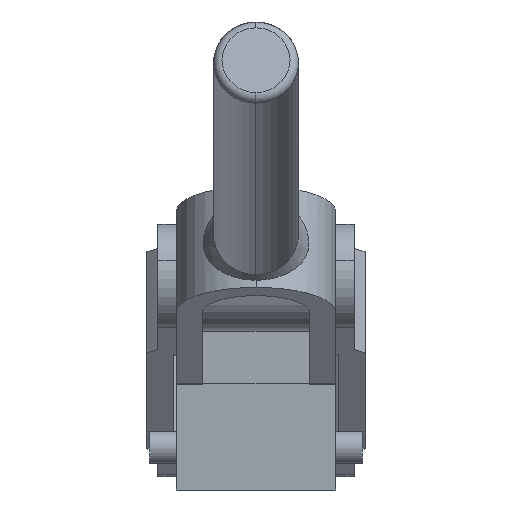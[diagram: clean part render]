
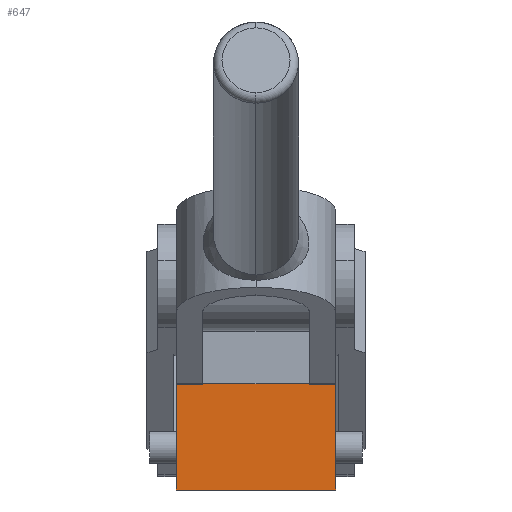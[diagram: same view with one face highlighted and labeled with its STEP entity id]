
A CAD part, left-side view. The second image highlights one B-rep face of the part: STEP entity #647.
In plain terms, the highlighted planar face has unit normal (-1, 0, 0).
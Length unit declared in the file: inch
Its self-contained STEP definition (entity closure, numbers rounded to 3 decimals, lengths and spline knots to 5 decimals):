
#647 = ADVANCED_FACE( '', ( #840, #841 ), #842, .T. );
#840 = FACE_OUTER_BOUND( '', #1133, .T. );
#841 = FACE_BOUND( '', #1134, .T. );
#842 = PLANE( '', #1135 );
#1133 = EDGE_LOOP( '', ( #1714, #1715, #1716, #1717 ) );
#1134 = EDGE_LOOP( '', ( #1718, #1719, #1720, #1721 ) );
#1135 = AXIS2_PLACEMENT_3D( '', #1722, #1723, #1724 );
#1714 = ORIENTED_EDGE( '', *, *, #2579, .T. );
#1715 = ORIENTED_EDGE( '', *, *, #2573, .F. );
#1716 = ORIENTED_EDGE( '', *, *, #2571, .F. );
#1717 = ORIENTED_EDGE( '', *, *, #2565, .T. );
#1718 = ORIENTED_EDGE( '', *, *, #2580, .T. );
#1719 = ORIENTED_EDGE( '', *, *, #2581, .T. );
#1720 = ORIENTED_EDGE( '', *, *, #2554, .T. );
#1721 = ORIENTED_EDGE( '', *, *, #2582, .T. );
#1722 = CARTESIAN_POINT( '', ( -2.5, -0.5625, 0. ) );
#1723 = DIRECTION( '', ( -1., 0., 0. ) );
#1724 = DIRECTION( '', ( 0., 0., 1. ) );
#2554 = EDGE_CURVE( '', #2993, #2991, #2994, .T. );
#2565 = EDGE_CURVE( '', #3013, #3011, #3014, .T. );
#2571 = EDGE_CURVE( '', #3013, #3022, #3023, .T. );
#2573 = EDGE_CURVE( '', #3022, #3025, #3026, .T. );
#2579 = EDGE_CURVE( '', #3011, #3025, #3034, .T. );
#2580 = EDGE_CURVE( '', #3035, #3036, #3037, .T. );
#2581 = EDGE_CURVE( '', #3036, #2993, #3038, .T. );
#2582 = EDGE_CURVE( '', #2991, #3035, #3039, .T. );
#2991 = VERTEX_POINT( '', #3707 );
#2993 = VERTEX_POINT( '', #3710 );
#2994 = LINE( '', #3711, #3712 );
#3011 = VERTEX_POINT( '', #3738 );
#3013 = VERTEX_POINT( '', #3741 );
#3014 = LINE( '', #3742, #3743 );
#3022 = VERTEX_POINT( '', #3752 );
#3023 = LINE( '', #3753, #3754 );
#3025 = VERTEX_POINT( '', #3757 );
#3026 = LINE( '', #3758, #3759 );
#3034 = LINE( '', #3768, #3769 );
#3035 = VERTEX_POINT( '', #3770 );
#3036 = VERTEX_POINT( '', #3771 );
#3037 = LINE( '', #3772, #3773 );
#3038 = LINE( '', #3774, #3775 );
#3039 = LINE( '', #3776, #3777 );
#3707 = CARTESIAN_POINT( '', ( -2.5, -0.37575, 0.74925 ) );
#3710 = CARTESIAN_POINT( '', ( -2.5, -0.37575, 1.50075 ) );
#3711 = CARTESIAN_POINT( '', ( -2.5, -0.37575, 1.50075 ) );
#3712 = VECTOR( '', #4505, 1. );
#3738 = CARTESIAN_POINT( '', ( -2.5, -0.5625, 1.75 ) );
#3741 = CARTESIAN_POINT( '', ( -2.5, -0.5625, 0. ) );
#3742 = CARTESIAN_POINT( '', ( -2.5, -0.5625, 0. ) );
#3743 = VECTOR( '', #4516, 1. );
#3752 = CARTESIAN_POINT( '', ( -2.5, 0.5625, 0. ) );
#3753 = CARTESIAN_POINT( '', ( -2.5, -0.5625, 0. ) );
#3754 = VECTOR( '', #4530, 1. );
#3757 = CARTESIAN_POINT( '', ( -2.5, 0.5625, 1.75 ) );
#3758 = CARTESIAN_POINT( '', ( -2.5, 0.5625, 0. ) );
#3759 = VECTOR( '', #4532, 1. );
#3768 = CARTESIAN_POINT( '', ( -2.5, -0.5625, 1.75 ) );
#3769 = VECTOR( '', #4546, 1. );
#3770 = CARTESIAN_POINT( '', ( -2.5, 0.37575, 0.74925 ) );
#3771 = CARTESIAN_POINT( '', ( -2.5, 0.37575, 1.50075 ) );
#3772 = CARTESIAN_POINT( '', ( -2.5, 0.37575, 0.74925 ) );
#3773 = VECTOR( '', #4547, 1. );
#3774 = CARTESIAN_POINT( '', ( -2.5, 0.37575, 1.50075 ) );
#3775 = VECTOR( '', #4548, 1. );
#3776 = CARTESIAN_POINT( '', ( -2.5, -0.37575, 0.74925 ) );
#3777 = VECTOR( '', #4549, 1. );
#4505 = DIRECTION( '', ( 0., 0., -1. ) );
#4516 = DIRECTION( '', ( 0., 0., 1. ) );
#4530 = DIRECTION( '', ( 0., 1., 0. ) );
#4532 = DIRECTION( '', ( 0., 0., 1. ) );
#4546 = DIRECTION( '', ( 0., 1., 0. ) );
#4547 = DIRECTION( '', ( 0., 0., 1. ) );
#4548 = DIRECTION( '', ( 0., -1., 0. ) );
#4549 = DIRECTION( '', ( 0., 1., 0. ) );
